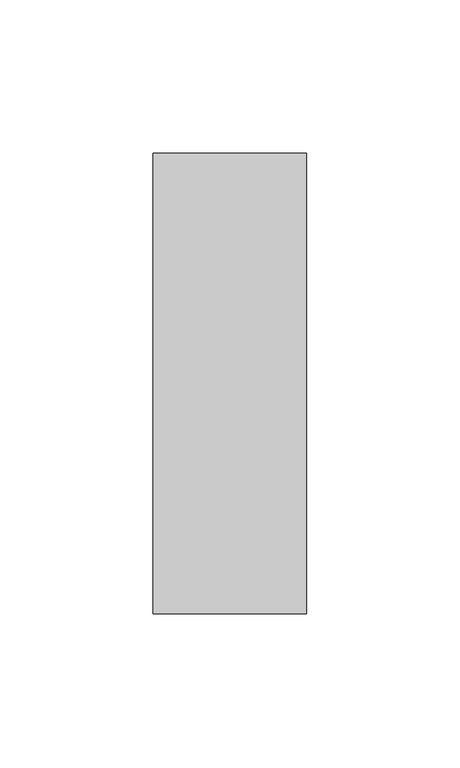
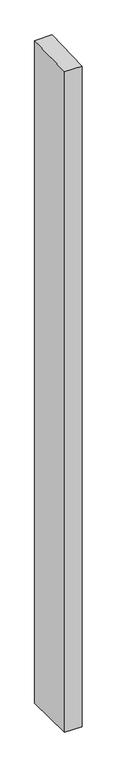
"""IFC4 building model written with IfcOpenShell, lengths in millimetres: member geometry, Прямоугольный импост : 50 x 150 мм."""

from ifc_helpers import new_model, si_unit, origin, place, context, project, spatial, faceted_brep, source, transform, mapped, element, save


def member_57170e2d(model_context):
    return source(origin(), model_context, "Body", "Brep", [
        faceted_brep([(-25.0, 75.0, 1.8940998), (25.0, 75.0, 2.0974134), (25.0, 75.0, -2021.2890978), (-25.0, 75.0, -2021.1074513), (-25.0, -75.0, -2.0974134), (-25.0, -75.0, -2019.1825498), (25.0, -75.0, -1.8940998), (25.0, -75.0, -2019.3641962)], [[[0, 1, 2, 3]], [[4, 0, 3, 5]], [[6, 4, 5, 7]], [[1, 6, 7, 2]], [[1, 0, 4, 6]], [[2, 7, 5, 3]]]),
    ])


if __name__ == "__main__":
    model = new_model("IFC4")
    model_context = context("Model", 3, world=origin())
    ifc_project = project(units=[si_unit("LENGTHUNIT", "METRE", prefix="MILLI")], contexts=[model_context])
    site = spatial("IfcSite", under=ifc_project)
    building = spatial("IfcBuilding", under=site)
    placement = place(None, origin())
    member_shape = member_57170e2d(model_context)
    element("IfcMember", 1, ObjectType="Прямоугольный импост : 50 x 150 мм", at=placement, inside=building, context=model_context, shape_type="MappedRepresentation", body=[
        mapped(member_shape, transform((0.0, 0.0, 0.0), x_axis=(1.0, 0.0, 0.0), y_axis=(0.0, 1.0, 0.0), z_axis=(0.0, 0.0, 1.0))),
    ])
    save(model, "model.ifc")
